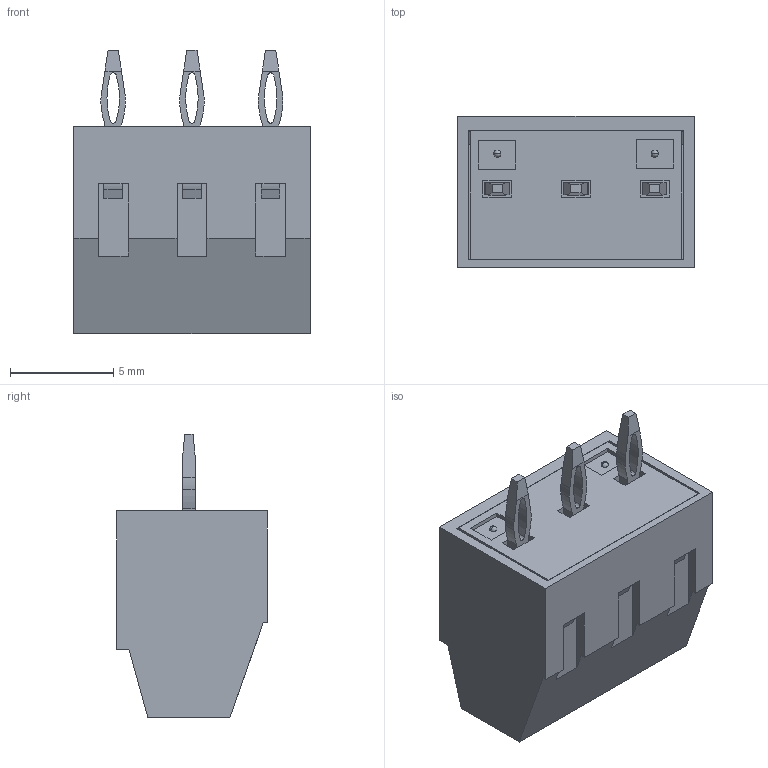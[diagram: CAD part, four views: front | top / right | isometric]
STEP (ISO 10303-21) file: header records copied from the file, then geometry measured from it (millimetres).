
FILE_DESCRIPTION((''),'2;1');
FILE_NAME('3PIN_SW0001','2019-05-31T',('zhenbing.lai'),(''),'CREO PARAMETRIC BY PTC INC, 2016260','CREO PARAMETRIC BY PTC INC, 2016260','');
FILE_SCHEMA(('CONFIG_CONTROL_DESIGN'));
Length unit declared in the file: millimetre
Products named in the file (1): 3PIN_SW0001
Bounding box: 11.43 x 7.3 x 13.7 mm (x, y, z)
Volume: 682.7 mm3; surface area: 900.1 mm2
Topology: 2 solids, 2 shells, 300 faces, 878 edges, 594 vertices
Faces by surface type: plane 188, cylinder 84, torus 18, cone 6, sphere 4
Entity records: 10548 total; most frequent: CARTESIAN_POINT 2334, ORIENTED_EDGE 1748, DIRECTION 1674, EDGE_CURVE 874, VERTEX_POINT 594, AXIS2_PLACEMENT_3D 564, VECTOR 546, LINE 546
